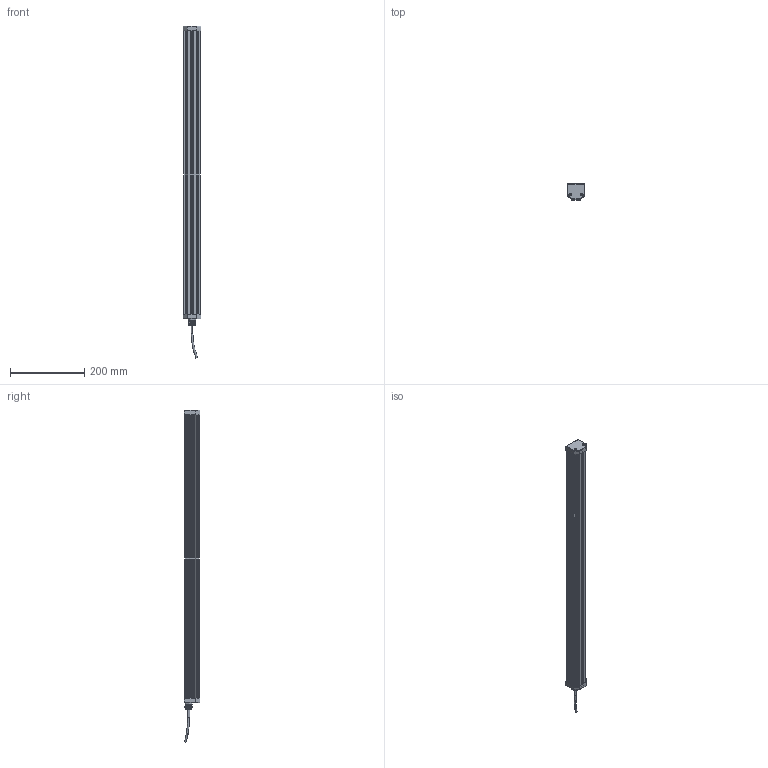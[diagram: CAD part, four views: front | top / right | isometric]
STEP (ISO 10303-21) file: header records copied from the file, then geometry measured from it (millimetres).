
FILE_DESCRIPTION (( 'STEP AP214' ), '1' );
FILE_NAME ('Stableuchte_780mm.STEP', '2021-09-08T11:10:22', ( '' ), ( '' ), 'SwSTEP 2.0', 'SolidWorks 2021', '' );
FILE_SCHEMA (( 'AUTOMOTIVE_DESIGN' ));
Length unit declared in the file: millimetre
Products named in the file (7): Stableuchte_Endkappe_anderes_Ende; Stableuchte_780mm; Kabelanbindung; Stableuchte_Endkappe_mit_Gewinde; Schraube_Lampe; Stableuchte_780r; Scheibe7
Assembly tree (9 placements, depth 2):
  Stableuchte_780mm
    Stableuchte_780r
    Scheibe7
    Stableuchte_Endkappe_anderes_Ende
    Stableuchte_Endkappe_mit_Gewinde
    Kabelanbindung
    Schraube_Lampe  x4
Bounding box: 48 x 42 x 896.29 mm (x, y, z)
Volume: 778047.4 mm3; surface area: 369532.8 mm2
Topology: 9 solids, 9 shells, 512 faces, 1394 edges, 862 vertices
Faces by surface type: cylinder 227, plane 219, torus 26, cone 16, bspline 16, sphere 8
Entity records: 15849 total; most frequent: CARTESIAN_POINT 3135, DIRECTION 2588, ORIENTED_EDGE 2456, EDGE_CURVE 1228, AXIS2_PLACEMENT_3D 939, VERTEX_POINT 766, VECTOR 710, LINE 710
